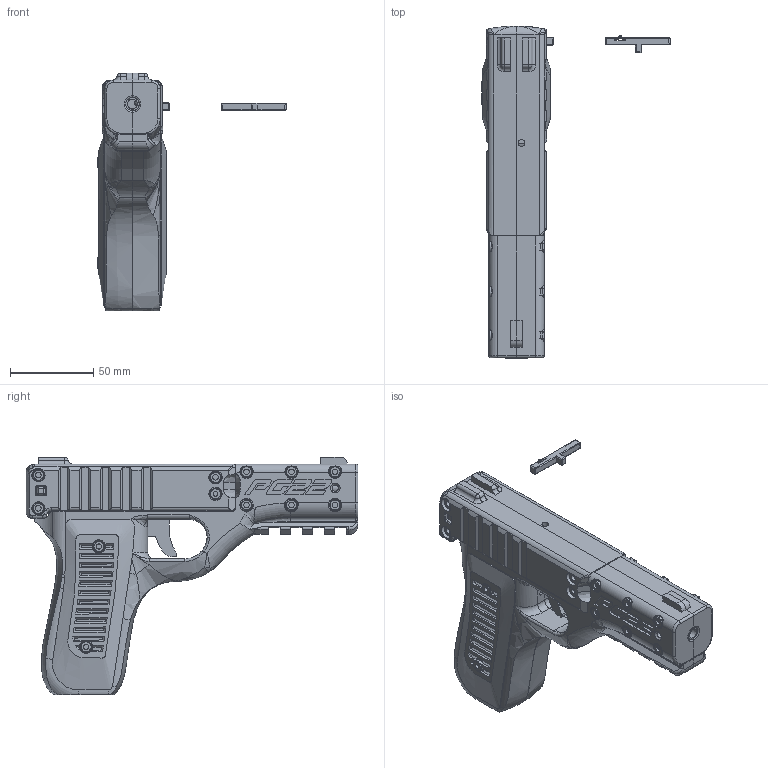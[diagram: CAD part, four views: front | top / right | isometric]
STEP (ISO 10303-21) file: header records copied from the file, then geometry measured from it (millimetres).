
FILE_DESCRIPTION(/* description */ (''),/* implementation_level */ '2;1');
FILE_NAME(/* name */ 'C:/Users/ross/OneDrive/3D Objects/Guns/PG22/Blowback/LR/Aurora1.4.stp',/* time_stamp */ '2020-10-30T09:14:59-05:00',/* author */ (''),/* organization */ (''),/* preprocessor_version */ 'ST-DEVELOPER v15.2',/* originating_system */ 'Autodesk Translator Framework v2.0.0.5431',/* authorisation */ '');
FILE_SCHEMA (('AUTOMOTIVE_DESIGN { 1 0 10303 214 3 1 1 }'));
Products named in the file (1): Aurora1.4
Bounding box: 113.3 x 199.83 x 143.26 mm (x, y, z)
Volume: 381291.9 mm3; surface area: 152349.6 mm2
Topology: 47 solids, 47 shells, 1938 faces, 4808 edges, 3000 vertices
Faces by surface type: plane 935, cylinder 569, bspline 294, torus 109, sphere 16, cone 15
Full cylindrical faces by diameter (mm): 1.7 x1, 1.899 x1, 1.932 x1, 2.999 x1, 3.1 x1, 3.132 x4, 3.25 x3, 3.332 x14, 3.4 x1, 3.5 x1, 3.666 x24, 3.75 x3, 3.998 x18, 3.999 x4, 4.132 x4, 4.332 x19, 6 x1, 6.998 x18, 7.998 x11, 8 x1, 9.331 x1
Entity records: 69713 total; most frequent: CARTESIAN_POINT 25676, ORIENTED_EDGE 9164, DIRECTION 8541, EDGE_CURVE 4582, AXIS2_PLACEMENT_3D 2997, VERTEX_POINT 2985, LINE 2547, VECTOR 2547
